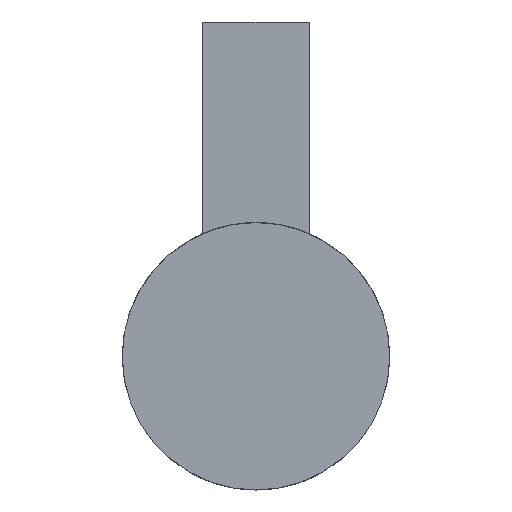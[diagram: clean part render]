
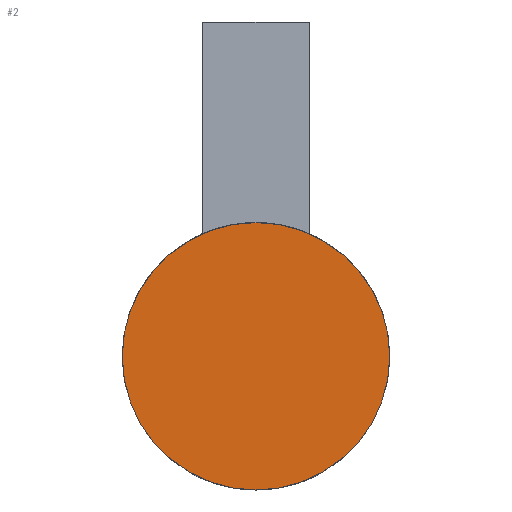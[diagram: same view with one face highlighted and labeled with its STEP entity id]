
A CAD part, front view. The second image highlights one B-rep face of the part: STEP entity #2.
In plain terms, the highlighted planar face has unit normal (0, -1, 0).
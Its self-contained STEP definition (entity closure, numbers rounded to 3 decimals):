
#2 = ADVANCED_FACE ( 'NONE', ( #442 ), #297, .F. ) ;
#12 = DIRECTION ( 'NONE',  ( 0., 1., 0. ) ) ;
#55 = ORIENTED_EDGE ( 'NONE', *, *, #573, .F. ) ;
#99 = AXIS2_PLACEMENT_3D ( 'NONE', #349, #397, #395 ) ;
#111 = EDGE_CURVE ( 'NONE', #284, #466, #369, .T. ) ;
#126 = EDGE_LOOP ( 'NONE', ( #55, #149 ) ) ;
#146 = CARTESIAN_POINT ( 'NONE',  ( 0., -4.25, 0. ) ) ;
#149 = ORIENTED_EDGE ( 'NONE', *, *, #111, .F. ) ;
#279 = AXIS2_PLACEMENT_3D ( 'NONE', #146, #323, #633 ) ;
#283 = CARTESIAN_POINT ( 'NONE',  ( 0., -4.25, 5. ) ) ;
#284 = VERTEX_POINT ( 'NONE', #283 ) ;
#297 = PLANE ( 'NONE',  #279 ) ;
#309 = CARTESIAN_POINT ( 'NONE',  ( 0., -4.25, 0. ) ) ;
#323 = DIRECTION ( 'NONE',  ( 0., 1., 0. ) ) ;
#349 = CARTESIAN_POINT ( 'NONE',  ( 0., -4.25, 0. ) ) ;
#357 = DIRECTION ( 'NONE',  ( 0., 0., 1. ) ) ;
#369 = CIRCLE ( 'NONE', #99, 5. ) ;
#395 = DIRECTION ( 'NONE',  ( 0., 0., 1. ) ) ;
#397 = DIRECTION ( 'NONE',  ( 0., 1., 0. ) ) ;
#423 = CARTESIAN_POINT ( 'NONE',  ( 0., -4.25, -5. ) ) ;
#442 = FACE_OUTER_BOUND ( 'NONE', #126, .T. ) ;
#466 = VERTEX_POINT ( 'NONE', #423 ) ;
#500 = CIRCLE ( 'NONE', #520, 5. ) ;
#520 = AXIS2_PLACEMENT_3D ( 'NONE', #309, #12, #357 ) ;
#573 = EDGE_CURVE ( 'NONE', #466, #284, #500, .T. ) ;
#633 = DIRECTION ( 'NONE',  ( 0., 0., 1. ) ) ;
